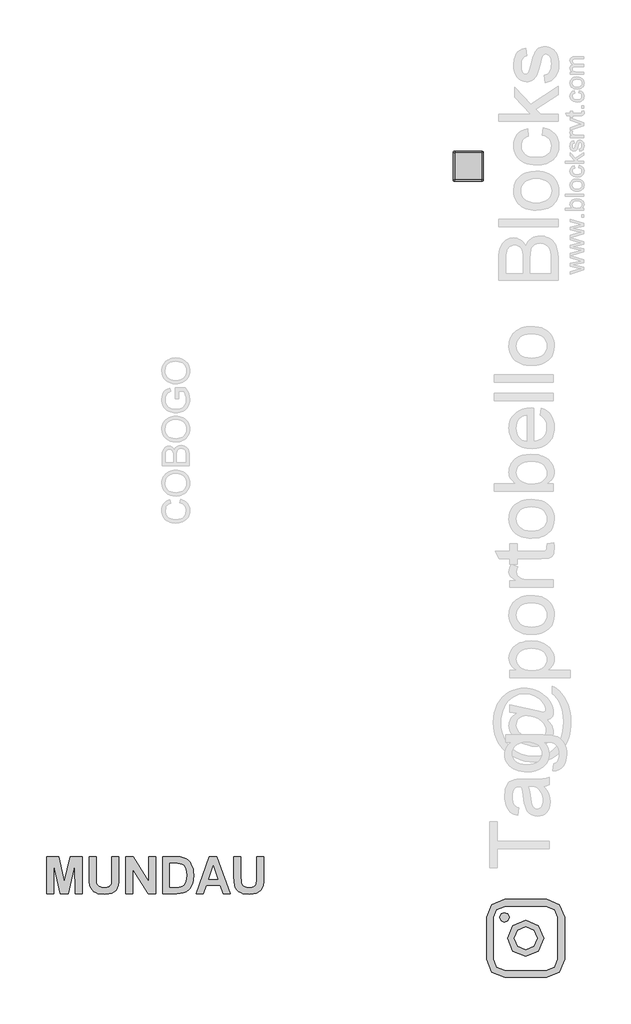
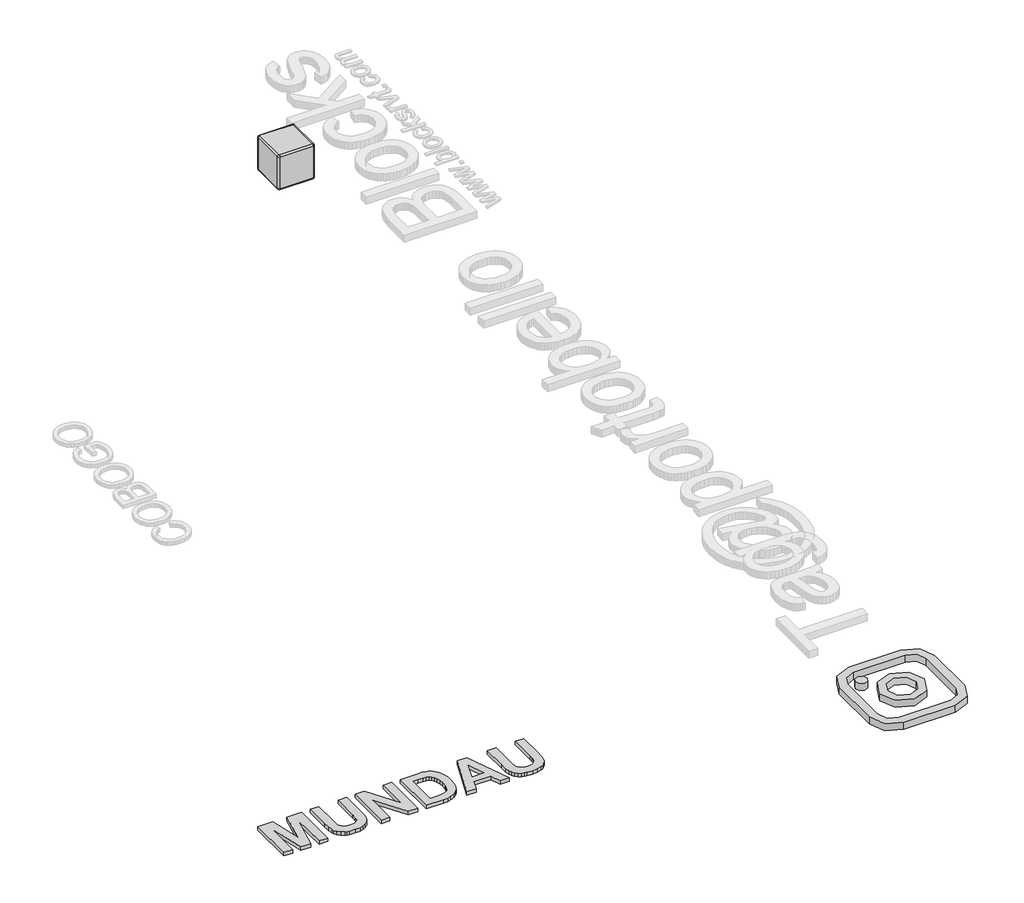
# One storey, part 1 of 4: 2 proxies, 1 furniture element.
"""IFC4 building model written with IfcOpenShell, lengths in millimetres."""

from ifc_helpers import new_model, si_unit, origin, origin_with_axes, place, context, project, spatial, polyline, outline, extrude, transform, mapped, element, save
from components import generic_models_d67f6705, branco_22256ad2

model = new_model("IFC4")

# Units and contexts
model_context = context("Model", 3, world=origin())
ifc_project = project(units=[si_unit("LENGTHUNIT", "METRE", prefix="MILLI")], contexts=[model_context])

# Site, building, storey
site = spatial("IfcSite", under=ifc_project)
building = spatial("IfcBuilding", under=site)
storey = spatial("IfcBuildingStorey", under=building, Name="PORTOBELLO - SHOWROOM", Elevation=0.0)

# Proxies
placement = place(None, origin())
generic_models_shape = generic_models_d67f6705(model_context)
element("IfcBuildingElementProxy", 1, Name="Blks_Instagram1 : Único 2", ObjectType="Blks_Instagram1 : Único 2", at=placement, inside=storey, context=model_context, shape_type="MappedRepresentation", body=[
    mapped(generic_models_shape, transform((79838.7551152, 14153.4536853, 0.0), x_axis=(-1.0, 0.0, 0.0), y_axis=(0.0, -1.0, 0.0), z_axis=(0.0, 0.0, 1.0))),
])
element("IfcBuildingElementProxy", 2, Name="600mm Arial", ObjectType="600mm Arial", at=placement, inside=storey, context=model_context, shape_type="SweptSolid", body=[
    extrude(outline(polyline([(71866.6807336, 14898.8995218), (71866.6807336, 15511.0551618), (72066.4815327, 15511.0551618), (72163.0417974, 15093.5382942), (72259.602062, 15511.0551618), (72459.4028612, 15511.0551618), (72459.4028612, 14898.8995218), (72342.8017869, 14898.8995218), (72337.9434088, 15380.7898991), (72231.3627393, 14898.8995218), (72094.8726797, 14898.8995218), (71988.140186, 15380.7898991), (71983.2818079, 14898.8995218), (71866.6807336, 14898.8995218)])), origin_with_axes(), (0.0, 0.0, 1.0), 50.0),
    extrude(outline(polyline([(72576.0039355, 15511.0551618), (72692.6050097, 15511.0551618), (72692.6050097, 15180.8372756), (72693.8575603, 15116.0082929), (72697.6152122, 15078.8113356), (72703.4319812, 15061.0526352), (72712.2283025, 15045.1253156), (72724.004176, 15031.0293768), (72738.7596016, 15018.7648189), (72756.4945795, 15008.8345597), (72777.2091095, 15001.7415175), (72827.5768262, 14996.0670837), (72877.8876087, 15001.4188908), (72897.7338935, 15008.1086497), (72914.0407739, 15017.4743122), (72937.3268282, 15041.3297077), (72949.0362786, 15070.0814375), (72953.4771398, 15111.5864097), (72954.9574269, 15173.7015328), (72954.9574269, 15511.0551618), (73071.5585012, 15511.0551618), (73071.5585012, 15189.9467345), (73069.0154439, 15095.9295272), (73061.386272, 15034.3268112), (73046.925006, 14992.4422782), (73023.8856661, 14957.5796197), (72991.9456257, 14929.4351872), (72950.7822582, 14907.7053321), (72898.0043305, 14893.8134072), (72831.2206098, 14889.1827656), (72752.9931312, 14894.2309241), (72721.9355697, 14900.5411222), (72696.2487933, 14909.3753996), (72655.0664477, 14932.6045198), (72623.5249462, 14961.9066127), (72601.3585961, 14995.0422696), (72588.301705, 15029.7720817), (72579.0783779, 15094.8288009), (72576.0039355, 15184.9365321), (72576.0039355, 15511.0551618)])), origin_with_axes(), (0.0, 0.0, 1.0), 50.0),
    extrude(outline(polyline([(73188.1595754, 14898.8995218), (73188.1595754, 15511.0551618), (73310.3781494, 15511.0551618), (73567.1130669, 15099.0039696), (73567.1130669, 15511.0551618), (73683.7141411, 15511.0551618), (73683.7141411, 14898.8995218), (73557.6999593, 14898.8995218), (73304.7606497, 15304.8777414), (73304.7606497, 14898.8995218), (73188.1595754, 14898.8995218)])), origin_with_axes(), (0.0, 0.0, 1.0), 50.0),
    extrude(outline(polyline([(73800.3152154, 15511.0551618), (74026.9889184, 15511.0551618), (74094.5507388, 15508.1325437), (74143.8936413, 15499.3646895), (74169.9504895, 15489.8614362), (74194.0715776, 15477.2932296), (74216.2569057, 15461.6600696), (74236.5064738, 15442.9619563), (74254.6352459, 15421.5926839), (74270.4581863, 15397.9460467), (74295.1865717, 15343.8206783), (74303.9876375, 15312.7678612), (74310.274113, 15278.2895081), (74315.3032935, 15199.0561935), (74310.5967397, 15128.7615354), (74296.4770784, 15068.7909308), (74283.7048578, 15036.9837367), (74268.4654922, 15008.3648532), (74250.7589814, 14982.9342804), (74230.5853255, 14960.6920182), (74192.7051587, 14932.8322563), (74143.4381684, 14911.8045886), (74095.4996408, 14902.1257885), (74033.6691883, 14898.8995218), (73800.3152154, 14898.8995218), (73800.3152154, 15511.0551618)]), holes=[polyline([(73916.9162897, 15404.1708437), (73916.9162897, 15005.7838399), (74016.209392, 15005.7838399), (74064.1858757, 15007.2261709), (74096.6762792, 15011.5531639), (74126.2630427, 15021.4407224), (74150.3461747, 15036.5282638), (74169.722753, 15059.8902303), (74185.1898551, 15094.6010644), (74195.3241282, 15142.3498116), (74198.7022192, 15204.8255175), (74195.3241282, 15266.4282335), (74185.1898551, 15311.8616599), (74169.0015875, 15345.111185), (74147.4615127, 15370.162197), (74119.9623336, 15387.6979054), (74085.8967528, 15398.4015197), (74044.6384951, 15402.7285127), (73976.73507, 15404.1708437), (73916.9162897, 15404.1708437)])]), origin_with_axes(), (0.0, 0.0, 1.0), 50.0),
    extrude(outline(polyline([(74927.4589335, 14898.8995218), (74804.9367109, 14898.8995218), (74756.9602272, 15034.9341084), (74525.7317947, 15034.9341084), (74478.3626083, 14898.8995218), (74354.1703182, 14898.8995218), (74577.6557106, 15511.0551618), (74701.8480007, 15511.0551618), (74927.4589335, 14898.8995218)]), holes=[polyline([(74719.6114456, 15141.8184265), (74640.8146259, 15365.3038189), (74563.0805763, 15141.8184265), (74719.6114456, 15141.8184265)])]), origin_with_axes(), (0.0, 0.0, 1.0), 50.0),
    extrude(outline(polyline([(74985.7594706, 15511.0551618), (75102.3605449, 15511.0551618), (75102.3605449, 15180.8372756), (75103.6130955, 15116.0082929), (75107.3707473, 15078.8113356), (75113.1875164, 15061.0526352), (75121.9838377, 15045.1253156), (75133.7597111, 15031.0293768), (75148.5151368, 15018.7648189), (75166.2501146, 15008.8345597), (75186.9646447, 15001.7415175), (75237.3323613, 14996.0670837), (75287.6431439, 15001.4188908), (75307.4894286, 15008.1086497), (75323.796309, 15017.4743122), (75347.0823634, 15041.3297077), (75358.7918137, 15070.0814375), (75363.2326749, 15111.5864097), (75364.712962, 15173.7015328), (75364.712962, 15511.0551618), (75481.3140363, 15511.0551618), (75481.3140363, 15189.9467345), (75478.770979, 15095.9295272), (75471.1418072, 15034.3268112), (75456.6805411, 14992.4422782), (75433.6412012, 14957.5796197), (75401.7011609, 14929.4351872), (75360.5377933, 14907.7053321), (75307.7598657, 14893.8134072), (75240.9761449, 14889.1827656), (75162.7486664, 14894.2309241), (75131.6911048, 14900.5411222), (75106.0043285, 14909.3753996), (75064.8219829, 14932.6045198), (75033.2804813, 14961.9066127), (75011.1141313, 14995.0422696), (74998.0572402, 15029.7720817), (74988.833913, 15094.8288009), (74985.7594706, 15184.9365321), (74985.7594706, 15511.0551618)])), origin_with_axes(), (0.0, 0.0, 1.0), 50.0),
])

# Furniture
branco_shape = branco_22256ad2(model_context)
element("IfcFurniture", 3, ObjectType="Blks_Mob_Blocks Revit_Cubo : Branco", at=placement, inside=storey, context=model_context, shape_type="MappedRepresentation", body=[
    mapped(branco_shape, transform((78884.1687468, 27002.956419, 0.0), x_axis=(1.0, 0.0, 0.0), y_axis=(0.0, 1.0, 0.0), z_axis=(0.0, 0.0, 1.0))),
])

save(model, "model.ifc")
